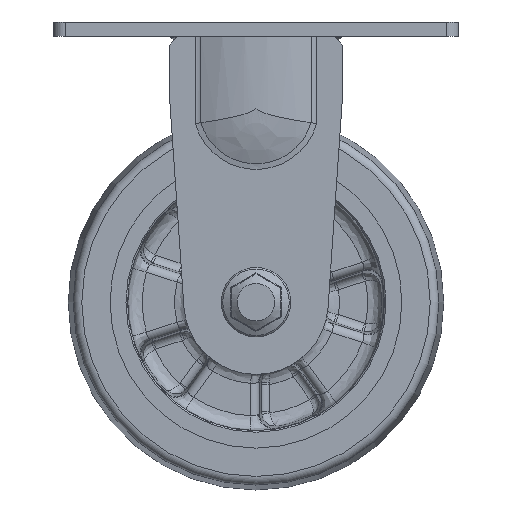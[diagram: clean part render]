
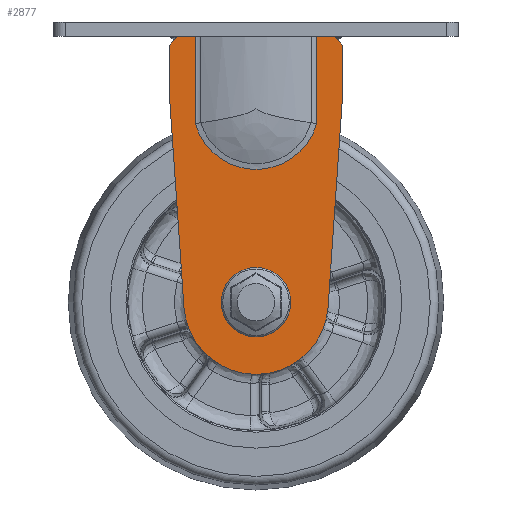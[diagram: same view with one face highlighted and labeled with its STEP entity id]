
A CAD part, front view. The second image highlights one B-rep face of the part: STEP entity #2877.
In plain terms, the highlighted planar face has unit normal (0, -1, 0).
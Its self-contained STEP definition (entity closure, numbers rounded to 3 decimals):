
#1809=CARTESIAN_POINT('',(10.998,-31.5,-94.5));
#1810=VERTEX_POINT('',#1809);
#1811=CARTESIAN_POINT('',(-0.002,-31.5,-94.5));
#1812=DIRECTION('',(0.0,-1.0,0.0));
#1813=DIRECTION('',(0.0,0.0,-1.0));
#1814=AXIS2_PLACEMENT_3D('',#1811,#1812,#1813);
#1815=CIRCLE('',#1814,11.0);
#1816=EDGE_CURVE('',#1810,#1810,#1815,.T.);
#2753=CARTESIAN_POINT('',(-0.005,-31.5,-63.52));
#2754=DIRECTION('',(0.0,-1.0,0.0));
#2755=DIRECTION('',(0.0,0.0,-1.0));
#2756=AXIS2_PLACEMENT_3D('',#2753,#2754,#2755);
#2757=PLANE('',#2756);
#2758=CARTESIAN_POINT('',(-30.005,-31.5,-5.5));
#2759=VERTEX_POINT('',#2758);
#2760=CARTESIAN_POINT('',(-27.005,-31.5,-2.5));
#2761=VERTEX_POINT('',#2760);
#2762=CARTESIAN_POINT('',(-30.005,-31.5,-5.5));
#2763=DIRECTION('',(0.707,0.0,0.707));
#2764=VECTOR('',#2763,4.243);
#2765=LINE('',#2762,#2764);
#2766=EDGE_CURVE('',#2759,#2761,#2765,.T.);
#2767=ORIENTED_EDGE('',*,*,#2766,.F.);
#2768=CARTESIAN_POINT('',(-30.005,-31.5,-22.5));
#2769=VERTEX_POINT('',#2768);
#2770=CARTESIAN_POINT('',(-30.005,-31.5,-22.5));
#2771=DIRECTION('',(0.0,0.0,1.0));
#2772=VECTOR('',#2771,17.);
#2773=LINE('',#2770,#2772);
#2774=EDGE_CURVE('',#2769,#2759,#2773,.T.);
#2775=ORIENTED_EDGE('',*,*,#2774,.F.);
#2776=CARTESIAN_POINT('',(-24.944,-31.5,-96.212));
#2777=VERTEX_POINT('',#2776);
#2778=CARTESIAN_POINT('',(-24.944,-31.5,-96.212));
#2779=DIRECTION('',(-0.068,0.0,0.998));
#2780=VECTOR('',#2779,73.886);
#2781=LINE('',#2778,#2780);
#2782=EDGE_CURVE('',#2777,#2769,#2781,.T.);
#2783=ORIENTED_EDGE('',*,*,#2782,.F.);
#2784=CARTESIAN_POINT('',(24.939,-31.5,-96.212));
#2785=VERTEX_POINT('',#2784);
#2786=CARTESIAN_POINT('',(-0.002,-31.5,-94.5));
#2787=DIRECTION('',(0.0,1.0,0.0));
#2788=DIRECTION('',(1.0,0.0,0.0));
#2789=AXIS2_PLACEMENT_3D('',#2786,#2787,#2788);
#2790=CIRCLE('',#2789,25.0);
#2791=EDGE_CURVE('',#2785,#2777,#2790,.T.);
#2792=ORIENTED_EDGE('',*,*,#2791,.F.);
#2793=CARTESIAN_POINT('',(30.,-31.5,-22.5));
#2794=VERTEX_POINT('',#2793);
#2795=CARTESIAN_POINT('',(30.,-31.5,-22.5));
#2796=DIRECTION('',(-0.068,0.0,-0.998));
#2797=VECTOR('',#2796,73.886);
#2798=LINE('',#2795,#2797);
#2799=EDGE_CURVE('',#2794,#2785,#2798,.T.);
#2800=ORIENTED_EDGE('',*,*,#2799,.F.);
#2801=CARTESIAN_POINT('',(30.,-31.5,-5.5));
#2802=VERTEX_POINT('',#2801);
#2803=CARTESIAN_POINT('',(30.,-31.5,-5.5));
#2804=DIRECTION('',(0.0,0.0,-1.0));
#2805=VECTOR('',#2804,17.);
#2806=LINE('',#2803,#2805);
#2807=EDGE_CURVE('',#2802,#2794,#2806,.T.);
#2808=ORIENTED_EDGE('',*,*,#2807,.F.);
#2809=CARTESIAN_POINT('',(27.,-31.5,-2.5));
#2810=VERTEX_POINT('',#2809);
#2811=CARTESIAN_POINT('',(27.,-31.5,-2.5));
#2812=DIRECTION('',(0.707,0.0,-0.707));
#2813=VECTOR('',#2812,4.243);
#2814=LINE('',#2811,#2813);
#2815=EDGE_CURVE('',#2810,#2802,#2814,.T.);
#2816=ORIENTED_EDGE('',*,*,#2815,.F.);
#2817=CARTESIAN_POINT('',(21.013,-31.5,-2.5));
#2818=VERTEX_POINT('',#2817);
#2819=CARTESIAN_POINT('',(21.013,-31.5,-2.5));
#2820=DIRECTION('',(1.0,0.0,0.0));
#2821=VECTOR('',#2820,5.987);
#2822=LINE('',#2819,#2821);
#2823=EDGE_CURVE('',#2818,#2810,#2822,.T.);
#2824=ORIENTED_EDGE('',*,*,#2823,.F.);
#2825=CARTESIAN_POINT('',(21.013,-31.5,-32.645));
#2826=VERTEX_POINT('',#2825);
#2827=CARTESIAN_POINT('',(21.013,-31.5,-2.5));
#2828=DIRECTION('',(0.0,0.0,-1.0));
#2829=VECTOR('',#2828,30.145);
#2830=LINE('',#2827,#2829);
#2831=EDGE_CURVE('',#2818,#2826,#2830,.T.);
#2832=ORIENTED_EDGE('',*,*,#2831,.T.);
#2833=CARTESIAN_POINT('',(20.972,-31.5,-32.785));
#2834=VERTEX_POINT('',#2833);
#2835=CARTESIAN_POINT('',(21.013,-31.5,-32.645));
#2836=DIRECTION('',(-0.28,0.0,-0.96));
#2837=VECTOR('',#2836,0.145);
#2838=LINE('',#2835,#2837);
#2839=EDGE_CURVE('',#2826,#2834,#2838,.T.);
#2840=ORIENTED_EDGE('',*,*,#2839,.T.);
#2841=CARTESIAN_POINT('',(-20.981,-31.5,-32.785));
#2842=VERTEX_POINT('',#2841);
#2843=CARTESIAN_POINT('',(-0.005,-31.5,-26.667));
#2844=DIRECTION('',(0.0,-1.0,0.0));
#2845=DIRECTION('',(0.0,0.0,-1.0));
#2846=AXIS2_PLACEMENT_3D('',#2843,#2844,#2845);
#2847=CIRCLE('',#2846,21.851);
#2848=EDGE_CURVE('',#2842,#2834,#2847,.T.);
#2849=ORIENTED_EDGE('',*,*,#2848,.F.);
#2850=CARTESIAN_POINT('',(-21.022,-31.5,-32.645));
#2851=VERTEX_POINT('',#2850);
#2852=CARTESIAN_POINT('',(-21.022,-31.5,-32.645));
#2853=DIRECTION('',(0.28,0.0,-0.96));
#2854=VECTOR('',#2853,0.145);
#2855=LINE('',#2852,#2854);
#2856=EDGE_CURVE('',#2851,#2842,#2855,.T.);
#2857=ORIENTED_EDGE('',*,*,#2856,.F.);
#2858=CARTESIAN_POINT('',(-21.022,-31.5,-2.5));
#2859=VERTEX_POINT('',#2858);
#2860=CARTESIAN_POINT('',(-21.022,-31.5,-32.645));
#2861=DIRECTION('',(0.0,0.0,1.0));
#2862=VECTOR('',#2861,30.145);
#2863=LINE('',#2860,#2862);
#2864=EDGE_CURVE('',#2851,#2859,#2863,.T.);
#2865=ORIENTED_EDGE('',*,*,#2864,.T.);
#2866=CARTESIAN_POINT('',(-27.005,-31.5,-2.5));
#2867=DIRECTION('',(1.0,0.0,0.0));
#2868=VECTOR('',#2867,5.982);
#2869=LINE('',#2866,#2868);
#2870=EDGE_CURVE('',#2761,#2859,#2869,.T.);
#2871=ORIENTED_EDGE('',*,*,#2870,.F.);
#2872=EDGE_LOOP('',(#2767,#2775,#2783,#2792,#2800,#2808,#2816,#2824,#2832,#2840,#2849,#2857,#2865,#2871));
#2873=FACE_OUTER_BOUND('',#2872,.T.);
#2874=ORIENTED_EDGE('',*,*,#1816,.F.);
#2875=EDGE_LOOP('',(#2874));
#2876=FACE_BOUND('',#2875,.T.);
#2877=ADVANCED_FACE('',(#2873,#2876),#2757,.T.);
